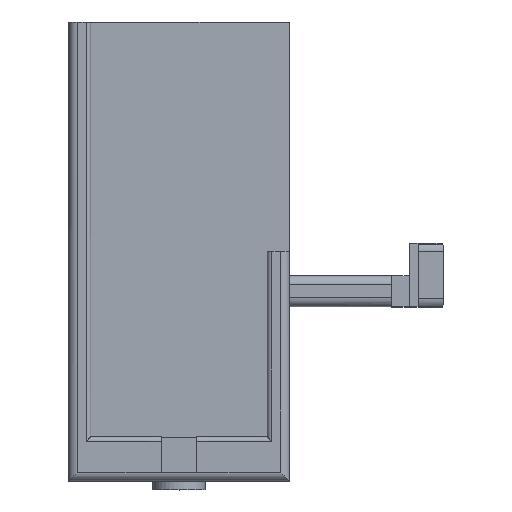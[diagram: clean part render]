
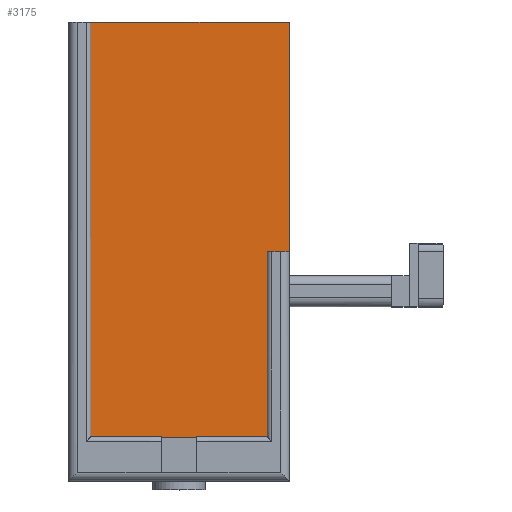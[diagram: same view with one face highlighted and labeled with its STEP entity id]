
A CAD part, top view. The second image highlights one B-rep face of the part: STEP entity #3175.
In plain terms, the highlighted planar face has unit normal (0, 0, 1).
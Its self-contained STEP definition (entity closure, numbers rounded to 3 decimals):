
#26 = DIRECTION ( 'NONE',  ( 1., 0., 0. ) ) ;
#58 = EDGE_CURVE ( 'NONE', #1019, #1117, #728, .T. ) ;
#228 = DIRECTION ( 'NONE',  ( 0., -1., 0. ) ) ;
#257 = CARTESIAN_POINT ( 'NONE',  ( 3.716, 52., 0.71 ) ) ;
#330 = LINE ( 'NONE', #1211, #563 ) ;
#344 = CARTESIAN_POINT ( 'NONE',  ( -44.284, 10., 0.71 ) ) ;
#384 = DIRECTION ( 'NONE',  ( 1., 0., 0. ) ) ;
#400 = CARTESIAN_POINT ( 'NONE',  ( -44.284, 64., 0.71 ) ) ;
#483 = EDGE_CURVE ( 'NONE', #1056, #1937, #3401, .T. ) ;
#548 = CARTESIAN_POINT ( 'NONE',  ( 5.716, 64., 0.71 ) ) ;
#563 = VECTOR ( 'NONE', #2445, 1000. ) ;
#634 = CARTESIAN_POINT ( 'NONE',  ( 5.716, 104., 0.71 ) ) ;
#637 = DIRECTION ( 'NONE',  ( 1., 0., 0. ) ) ;
#656 = CARTESIAN_POINT ( 'NONE',  ( 5.716, 104., 0.71 ) ) ;
#671 = LINE ( 'NONE', #344, #1845 ) ;
#728 = LINE ( 'NONE', #1029, #1567 ) ;
#1019 = VERTEX_POINT ( 'NONE', #2027 ) ;
#1029 = CARTESIAN_POINT ( 'NONE',  ( -42.284, 64., 0.71 ) ) ;
#1056 = VERTEX_POINT ( 'NONE', #257 ) ;
#1117 = VERTEX_POINT ( 'NONE', #1798 ) ;
#1211 = CARTESIAN_POINT ( 'NONE',  ( 3.716, 64., 0.71 ) ) ;
#1254 = CARTESIAN_POINT ( 'NONE',  ( 3.716, 10., 0.71 ) ) ;
#1322 = DIRECTION ( 'NONE',  ( -1., 0., 0. ) ) ;
#1360 = PLANE ( 'NONE',  #3072 ) ;
#1567 = VECTOR ( 'NONE', #1972, 1000. ) ;
#1798 = CARTESIAN_POINT ( 'NONE',  ( -42.284, 104., 0.71 ) ) ;
#1845 = VECTOR ( 'NONE', #384, 1000. ) ;
#1937 = VERTEX_POINT ( 'NONE', #3094 ) ;
#1969 = DIRECTION ( 'NONE',  ( 0., 0., -1. ) ) ;
#1972 = DIRECTION ( 'NONE',  ( 0., 1., 0. ) ) ;
#2027 = CARTESIAN_POINT ( 'NONE',  ( -42.284, 10., 0.71 ) ) ;
#2051 = ORIENTED_EDGE ( 'NONE', *, *, #483, .T. ) ;
#2133 = EDGE_CURVE ( 'NONE', #1019, #2375, #671, .T. ) ;
#2153 = VECTOR ( 'NONE', #637, 1000. ) ;
#2161 = CARTESIAN_POINT ( 'NONE',  ( -44.284, 52., 0.71 ) ) ;
#2166 = VECTOR ( 'NONE', #26, 1000. ) ;
#2208 = ORIENTED_EDGE ( 'NONE', *, *, #3746, .F. ) ;
#2375 = VERTEX_POINT ( 'NONE', #1254 ) ;
#2419 = EDGE_LOOP ( 'NONE', ( #3685, #2051, #2208, #3599, #3826, #2788 ) ) ;
#2445 = DIRECTION ( 'NONE',  ( 0., -1., 0. ) ) ;
#2779 = LINE ( 'NONE', #656, #2166 ) ;
#2788 = ORIENTED_EDGE ( 'NONE', *, *, #2133, .T. ) ;
#2875 = EDGE_CURVE ( 'NONE', #1056, #2375, #330, .T. ) ;
#3072 = AXIS2_PLACEMENT_3D ( 'NONE', #400, #1969, #1322 ) ;
#3094 = CARTESIAN_POINT ( 'NONE',  ( 5.716, 52., 0.71 ) ) ;
#3175 = ADVANCED_FACE ( 'NONE', ( #3178 ), #1360, .F. ) ;
#3178 = FACE_OUTER_BOUND ( 'NONE', #2419, .T. ) ;
#3271 = LINE ( 'NONE', #548, #3449 ) ;
#3401 = LINE ( 'NONE', #2161, #2153 ) ;
#3449 = VECTOR ( 'NONE', #228, 1000. ) ;
#3517 = EDGE_CURVE ( 'NONE', #1117, #3895, #2779, .T. ) ;
#3599 = ORIENTED_EDGE ( 'NONE', *, *, #3517, .F. ) ;
#3685 = ORIENTED_EDGE ( 'NONE', *, *, #2875, .F. ) ;
#3746 = EDGE_CURVE ( 'NONE', #3895, #1937, #3271, .T. ) ;
#3826 = ORIENTED_EDGE ( 'NONE', *, *, #58, .F. ) ;
#3895 = VERTEX_POINT ( 'NONE', #634 ) ;
